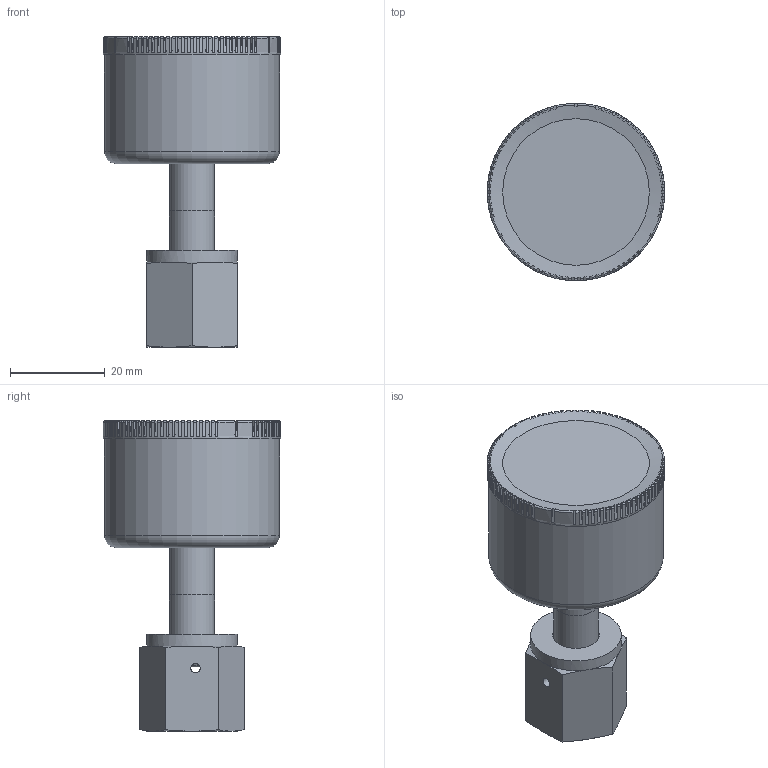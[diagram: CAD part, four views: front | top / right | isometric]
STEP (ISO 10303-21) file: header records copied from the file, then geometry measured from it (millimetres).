
FILE_DESCRIPTION(/* description */ (''),/* implementation_level */ '2;1');
FILE_NAME(/* name */ 'P800_35PI_CENTER BACK MOUNT_SWIVEL(F).stp',/* time_stamp */ '2025-04-02T09:10:43+09:00',/* author */ ('wise-209'),/* organization */ (''),/* preprocessor_version */ 'ST-DEVELOPER v19.2',/* originating_system */ 'Autodesk Inventor 2024',/* authorisation */ '');
FILE_SCHEMA (('AUTOMOTIVE_DESIGN { 1 0 10303 214 3 1 1 }'));
Length unit declared in the file: millimetre
Products named in the file (4): P820_50mm_F Type_SM_ASSY.ipt; case; SHANK; 14NUT
Assembly tree (3 placements, depth 2):
  P820_50mm_F Type_SM_ASSY.ipt
    case
    SHANK
    14NUT
Bounding box: 37.5 x 37.5 x 65.6 mm (x, y, z)
Volume: 32221 mm3; surface area: 11043.9 mm2
Topology: 3 solids, 4 shells, 363 faces, 1032 edges, 683 vertices
Faces by surface type: plane 252, torus 77, cone 19, cylinder 15
Full cylindrical faces by diameter (mm): 2 x2, 4.5 x1, 7.8 x1, 9.53 x2, 9.9 x1, 11.3 x1, 12.7 x1, 12.8 x1, 15 x1, 19.2 x1, 31 x1, 37 x1, 37.5 x1
Entity records: 13282 total; most frequent: CARTESIAN_POINT 4009, ORIENTED_EDGE 2064, DIRECTION 1801, EDGE_CURVE 1032, VERTEX_POINT 683, AXIS2_PLACEMENT_3D 655, LINE 491, VECTOR 491
